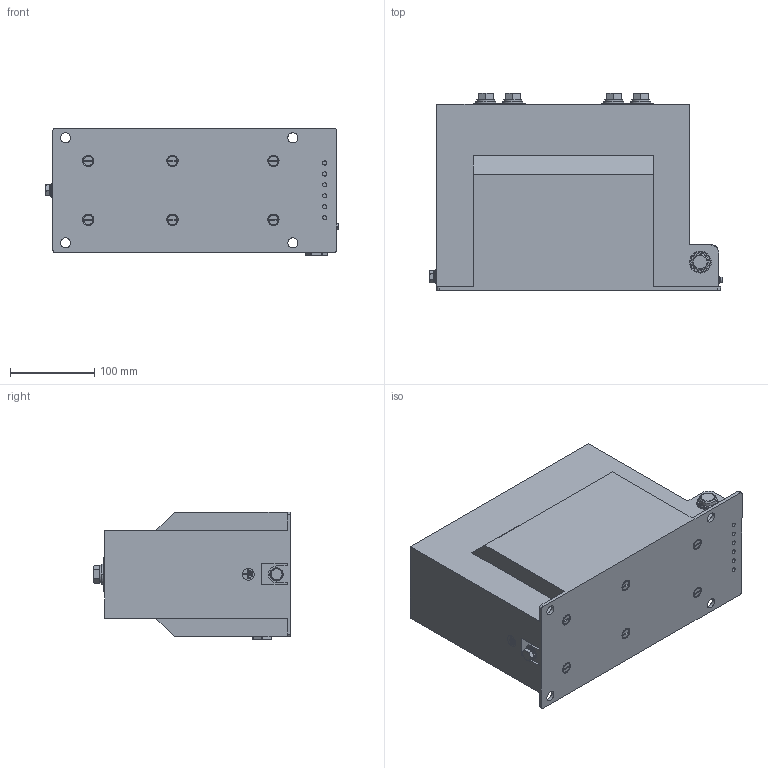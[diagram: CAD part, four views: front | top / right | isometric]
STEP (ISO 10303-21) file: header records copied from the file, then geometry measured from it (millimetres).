
FILE_DESCRIPTION (( 'STEP AP203' ), '1' );
FILE_NAME ('CTS_12_S_1250A_2.STEP', '2014-08-04T10:03:12', ( 'Petr' ), ( 'Hewlett-Packard Company' ), 'SwSTEP 2.0', 'SolidWorks 2014', '' );
FILE_SCHEMA (( 'CONFIG_CONTROL_DESIGN' ));
Length unit declared in the file: millimetre
Products named in the file (1): CTS_12_S_1250A_2
Bounding box: 347.5 x 234.1 x 151.9 mm (x, y, z)
Volume: 8371310 mm3; surface area: 334272.4 mm2
Topology: 1 solids, 7 shells, 885 faces, 2193 edges, 1349 vertices
Faces by surface type: plane 390, cylinder 315, cone 72, torus 49, bspline 38, sphere 21
Entity records: 32626 total; most frequent: CARTESIAN_POINT 11584, DIRECTION 4490, ORIENTED_EDGE 4314, EDGE_CURVE 2157, AXIS2_PLACEMENT_3D 1706, VERTEX_POINT 1341, LINE 1078, VECTOR 1078
